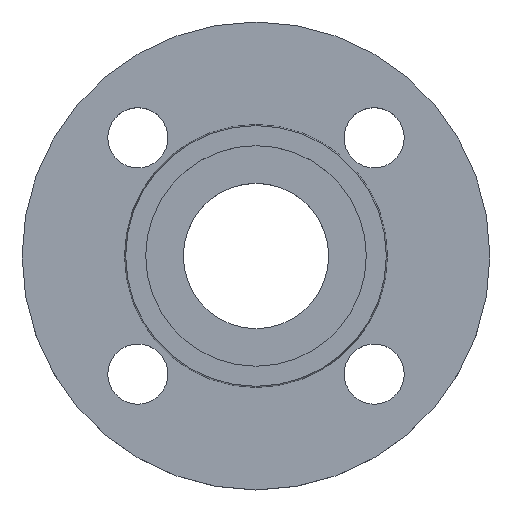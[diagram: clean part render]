
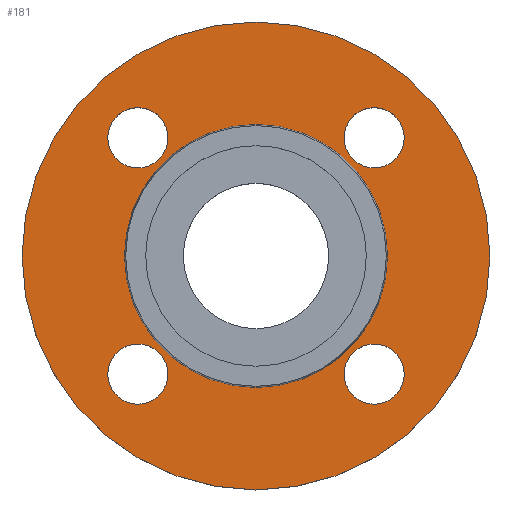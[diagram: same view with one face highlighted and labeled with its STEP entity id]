
A CAD part, top view. The second image highlights one B-rep face of the part: STEP entity #181.
In plain terms, the highlighted planar face has unit normal (0, 0, 1).
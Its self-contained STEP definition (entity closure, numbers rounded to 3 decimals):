
#10 = VERTEX_POINT ( 'NONE', #508 ) ;
#15 = CARTESIAN_POINT ( 'NONE',  ( 35.355, -35.355, -2. ) ) ;
#18 = AXIS2_PLACEMENT_3D ( 'NONE', #15, #279, #530 ) ;
#19 = CIRCLE ( 'NONE', #491, 9. ) ;
#25 = EDGE_CURVE ( 'NONE', #302, #97, #589, .T. ) ;
#31 = ORIENTED_EDGE ( 'NONE', *, *, #65, .T. ) ;
#38 = VERTEX_POINT ( 'NONE', #450 ) ;
#41 = CARTESIAN_POINT ( 'NONE',  ( 0., 0., -2. ) ) ;
#50 = CIRCLE ( 'NONE', #625, 9. ) ;
#53 = CARTESIAN_POINT ( 'NONE',  ( 26.355, 35.355, -2. ) ) ;
#65 = EDGE_CURVE ( 'NONE', #135, #540, #145, .T. ) ;
#68 = DIRECTION ( 'NONE',  ( 0., 0., -1. ) ) ;
#76 = AXIS2_PLACEMENT_3D ( 'NONE', #253, #499, #736 ) ;
#81 = CARTESIAN_POINT ( 'NONE',  ( 0., 0., -2. ) ) ;
#84 = DIRECTION ( 'NONE',  ( 0., 0., -1. ) ) ;
#93 = DIRECTION ( 'NONE',  ( 0., 0., 1. ) ) ;
#97 = VERTEX_POINT ( 'NONE', #208 ) ;
#106 = CIRCLE ( 'NONE', #573, 9. ) ;
#113 = EDGE_CURVE ( 'NONE', #38, #754, #216, .T. ) ;
#118 = ORIENTED_EDGE ( 'NONE', *, *, #157, .T. ) ;
#129 = CIRCLE ( 'NONE', #595, 9. ) ;
#135 = VERTEX_POINT ( 'NONE', #704 ) ;
#142 = EDGE_CURVE ( 'NONE', #551, #357, #280, .T. ) ;
#143 = DIRECTION ( 'NONE',  ( 0., 0., -1. ) ) ;
#144 = CARTESIAN_POINT ( 'NONE',  ( 70., 0., -2. ) ) ;
#145 = CIRCLE ( 'NONE', #610, 9. ) ;
#146 = EDGE_CURVE ( 'NONE', #10, #423, #388, .T. ) ;
#157 = EDGE_CURVE ( 'NONE', #540, #135, #129, .T. ) ;
#161 = FACE_OUTER_BOUND ( 'NONE', #312, .T. ) ;
#179 = ORIENTED_EDGE ( 'NONE', *, *, #548, .T. ) ;
#181 = ADVANCED_FACE ( 'NONE', ( #538, #766, #228, #476, #715, #161 ), #418, .T. ) ;
#182 = DIRECTION ( 'NONE',  ( -1., 0., 0. ) ) ;
#187 = CARTESIAN_POINT ( 'NONE',  ( -39.353, 0., -2. ) ) ;
#191 = VERTEX_POINT ( 'NONE', #525 ) ;
#194 = ORIENTED_EDGE ( 'NONE', *, *, #142, .T. ) ;
#201 = AXIS2_PLACEMENT_3D ( 'NONE', #662, #93, #353 ) ;
#202 = CIRCLE ( 'NONE', #659, 39.353 ) ;
#208 = CARTESIAN_POINT ( 'NONE',  ( -26.355, 35.355, -2. ) ) ;
#216 = CIRCLE ( 'NONE', #670, 70. ) ;
#228 = FACE_BOUND ( 'NONE', #798, .T. ) ;
#250 = DIRECTION ( 'NONE',  ( 0., 0., -1. ) ) ;
#252 = EDGE_LOOP ( 'NONE', ( #179, #384 ) ) ;
#253 = CARTESIAN_POINT ( 'NONE',  ( 35.355, -35.355, -2. ) ) ;
#264 = CARTESIAN_POINT ( 'NONE',  ( -35.355, 35.355, -2. ) ) ;
#266 = EDGE_LOOP ( 'NONE', ( #194, #351 ) ) ;
#267 = DIRECTION ( 'NONE',  ( 1., 0., 0. ) ) ;
#269 = CIRCLE ( 'NONE', #717, 70. ) ;
#279 = DIRECTION ( 'NONE',  ( 0., 0., -1. ) ) ;
#280 = CIRCLE ( 'NONE', #727, 39.353 ) ;
#299 = CARTESIAN_POINT ( 'NONE',  ( 44.355, -35.355, -2. ) ) ;
#302 = VERTEX_POINT ( 'NONE', #661 ) ;
#303 = DIRECTION ( 'NONE',  ( 0., 0., -1. ) ) ;
#305 = CARTESIAN_POINT ( 'NONE',  ( -35.355, -35.355, -2. ) ) ;
#312 = EDGE_LOOP ( 'NONE', ( #679, #614 ) ) ;
#326 = DIRECTION ( 'NONE',  ( 1., 0., 0. ) ) ;
#339 = DIRECTION ( 'NONE',  ( 0., 0., -1. ) ) ;
#343 = DIRECTION ( 'NONE',  ( 1., 0., 0. ) ) ;
#351 = ORIENTED_EDGE ( 'NONE', *, *, #451, .T. ) ;
#353 = DIRECTION ( 'NONE',  ( 1., 0., 0. ) ) ;
#357 = VERTEX_POINT ( 'NONE', #722 ) ;
#380 = ORIENTED_EDGE ( 'NONE', *, *, #405, .T. ) ;
#384 = ORIENTED_EDGE ( 'NONE', *, *, #146, .T. ) ;
#388 = CIRCLE ( 'NONE', #18, 9. ) ;
#393 = CARTESIAN_POINT ( 'NONE',  ( -35.355, -35.355, -2. ) ) ;
#394 = ORIENTED_EDGE ( 'NONE', *, *, #496, .T. ) ;
#399 = DIRECTION ( 'NONE',  ( -1., 0., 0. ) ) ;
#405 = EDGE_CURVE ( 'NONE', #97, #302, #19, .T. ) ;
#418 = PLANE ( 'NONE',  #201 ) ;
#423 = VERTEX_POINT ( 'NONE', #299 ) ;
#441 = CIRCLE ( 'NONE', #76, 9. ) ;
#449 = ORIENTED_EDGE ( 'NONE', *, *, #25, .T. ) ;
#450 = CARTESIAN_POINT ( 'NONE',  ( -70., 0., -2. ) ) ;
#451 = EDGE_CURVE ( 'NONE', #357, #551, #202, .T. ) ;
#474 = EDGE_LOOP ( 'NONE', ( #31, #118 ) ) ;
#476 = FACE_BOUND ( 'NONE', #474, .T. ) ;
#485 = ORIENTED_EDGE ( 'NONE', *, *, #628, .T. ) ;
#491 = AXIS2_PLACEMENT_3D ( 'NONE', #785, #250, #495 ) ;
#493 = CARTESIAN_POINT ( 'NONE',  ( 0., 0., -2. ) ) ;
#495 = DIRECTION ( 'NONE',  ( 1., 0., 0. ) ) ;
#496 = EDGE_CURVE ( 'NONE', #640, #191, #50, .T. ) ;
#499 = DIRECTION ( 'NONE',  ( 0., 0., -1. ) ) ;
#500 = EDGE_CURVE ( 'NONE', #754, #38, #269, .T. ) ;
#508 = CARTESIAN_POINT ( 'NONE',  ( 26.355, -35.355, -2. ) ) ;
#511 = DIRECTION ( 'NONE',  ( 0., 0., -1. ) ) ;
#525 = CARTESIAN_POINT ( 'NONE',  ( -44.355, -35.355, -2. ) ) ;
#530 = DIRECTION ( 'NONE',  ( 1., 0., 0. ) ) ;
#538 = FACE_BOUND ( 'NONE', #252, .T. ) ;
#540 = VERTEX_POINT ( 'NONE', #53 ) ;
#548 = EDGE_CURVE ( 'NONE', #423, #10, #441, .T. ) ;
#551 = VERTEX_POINT ( 'NONE', #187 ) ;
#552 = DIRECTION ( 'NONE',  ( -1., 0., 0. ) ) ;
#555 = DIRECTION ( 'NONE',  ( 0., 0., -1. ) ) ;
#573 = AXIS2_PLACEMENT_3D ( 'NONE', #393, #68, #326 ) ;
#579 = CARTESIAN_POINT ( 'NONE',  ( 35.355, 35.355, -2. ) ) ;
#589 = CIRCLE ( 'NONE', #737, 9. ) ;
#591 = DIRECTION ( 'NONE',  ( -1., 0., 0. ) ) ;
#595 = AXIS2_PLACEMENT_3D ( 'NONE', #655, #84, #343 ) ;
#610 = AXIS2_PLACEMENT_3D ( 'NONE', #579, #802, #267 ) ;
#614 = ORIENTED_EDGE ( 'NONE', *, *, #113, .F. ) ;
#625 = AXIS2_PLACEMENT_3D ( 'NONE', #305, #555, #780 ) ;
#628 = EDGE_CURVE ( 'NONE', #191, #640, #106, .T. ) ;
#640 = VERTEX_POINT ( 'NONE', #753 ) ;
#655 = CARTESIAN_POINT ( 'NONE',  ( 35.355, 35.355, -2. ) ) ;
#659 = AXIS2_PLACEMENT_3D ( 'NONE', #41, #303, #552 ) ;
#661 = CARTESIAN_POINT ( 'NONE',  ( -44.355, 35.355, -2. ) ) ;
#662 = CARTESIAN_POINT ( 'NONE',  ( 39.353, 0., -2. ) ) ;
#670 = AXIS2_PLACEMENT_3D ( 'NONE', #701, #143, #399 ) ;
#679 = ORIENTED_EDGE ( 'NONE', *, *, #500, .F. ) ;
#701 = CARTESIAN_POINT ( 'NONE',  ( 0., 0., -2. ) ) ;
#704 = CARTESIAN_POINT ( 'NONE',  ( 44.355, 35.355, -2. ) ) ;
#715 = FACE_BOUND ( 'NONE', #266, .T. ) ;
#717 = AXIS2_PLACEMENT_3D ( 'NONE', #493, #731, #182 ) ;
#722 = CARTESIAN_POINT ( 'NONE',  ( 39.353, 0., -2. ) ) ;
#727 = AXIS2_PLACEMENT_3D ( 'NONE', #81, #339, #591 ) ;
#731 = DIRECTION ( 'NONE',  ( 0., 0., -1. ) ) ;
#736 = DIRECTION ( 'NONE',  ( 1., 0., 0. ) ) ;
#737 = AXIS2_PLACEMENT_3D ( 'NONE', #264, #511, #747 ) ;
#738 = EDGE_LOOP ( 'NONE', ( #394, #485 ) ) ;
#747 = DIRECTION ( 'NONE',  ( 1., 0., 0. ) ) ;
#753 = CARTESIAN_POINT ( 'NONE',  ( -26.355, -35.355, -2. ) ) ;
#754 = VERTEX_POINT ( 'NONE', #144 ) ;
#766 = FACE_BOUND ( 'NONE', #738, .T. ) ;
#780 = DIRECTION ( 'NONE',  ( 1., 0., 0. ) ) ;
#785 = CARTESIAN_POINT ( 'NONE',  ( -35.355, 35.355, -2. ) ) ;
#798 = EDGE_LOOP ( 'NONE', ( #380, #449 ) ) ;
#802 = DIRECTION ( 'NONE',  ( 0., 0., -1. ) ) ;
